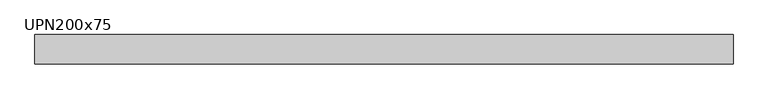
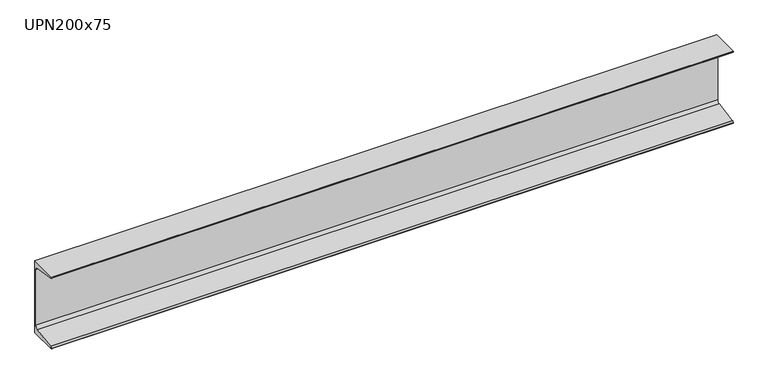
"""IFC4 building model written with IfcOpenShell, lengths in millimetres: beam geometry, M_MC Shapes : UPN200x75."""

from ifc_helpers import new_model, si_unit, point, frame, frame_2d, origin, place, context, project, spatial, polyline, circle_curve, trimmed, segment, composite_curve, outline, extrude, source, transform, mapped, element, save


def upn200x75_f16fdd2e(model_context):
    return source(origin(), model_context, "Body", "SweptSolid", [
        extrude(outline(composite_curve([segment(polyline([(10.9, 100.0), (10.9, -100.0), (-64.1, -100.0), (-64.1, -99.0253247)]), True, "CONTINUOUS"), segment(trimmed(circle_curve(frame_2d((-60.15, -99.0253247)), 3.95), [point((-64.1, -99.0253247))], [point((-60.7993773, -95.1290689))], False, "CARTESIAN"), True, "CONTINUOUS"), segment(polyline([(-60.7993773, -95.1290689), (-0.2512455, -85.0376935)]), True, "CONTINUOUS"), segment(trimmed(circle_curve(frame_2d((-1.55, -77.2451819)), 7.9), [point((-0.2512455, -85.0376935))], [point((6.35, -77.2451819))], True, "CARTESIAN"), True, "CONTINUOUS"), segment(polyline([(6.35, -77.2451819), (6.35, 77.2451819)]), True, "CONTINUOUS"), segment(trimmed(circle_curve(frame_2d((-1.55, 77.2451819)), 7.9), [point((6.35, 77.2451819))], [point((-0.2512455, 85.0376935))], True, "CARTESIAN"), True, "CONTINUOUS"), segment(polyline([(-0.2512455, 85.0376935), (-60.7993773, 95.1290689)]), True, "CONTINUOUS"), segment(trimmed(circle_curve(frame_2d((-60.15, 99.0253247)), 3.95), [point((-60.7993773, 95.1290689))], [point((-64.1, 99.0253247))], False, "CARTESIAN"), True, "CONTINUOUS"), segment(polyline([(-64.1, 99.0253247), (-64.1, 100.0), (10.9, 100.0)]), True, "CONTINUOUS")], self_intersect=False)), frame((-934.2, 0.0, 0.0), z_axis=(1.0, 0.0, 0.0), x_axis=(0.0, 1.0, 0.0)), (0.0, 0.0, 1.0), 1792.7),
    ])


if __name__ == "__main__":
    model = new_model("IFC4")
    model_context = context("Model", 3, world=origin())
    ifc_project = project(units=[si_unit("LENGTHUNIT", "METRE", prefix="MILLI")], contexts=[model_context])
    site = spatial("IfcSite", under=ifc_project)
    building = spatial("IfcBuilding", under=site)
    placement = place(None, origin())
    upn200x75_shape = upn200x75_f16fdd2e(model_context)
    element("IfcBeam", 1, ObjectType="M_MC Shapes : UPN200x75", at=placement, inside=building, context=model_context, shape_type="MappedRepresentation", body=[
        mapped(upn200x75_shape, transform((0.0, 0.0, 0.0), x_axis=(1.0, 0.0, 0.0), y_axis=(0.0, 1.0, 0.0), z_axis=(0.0, 0.0, 1.0))),
    ])
    save(model, "model.ifc")
